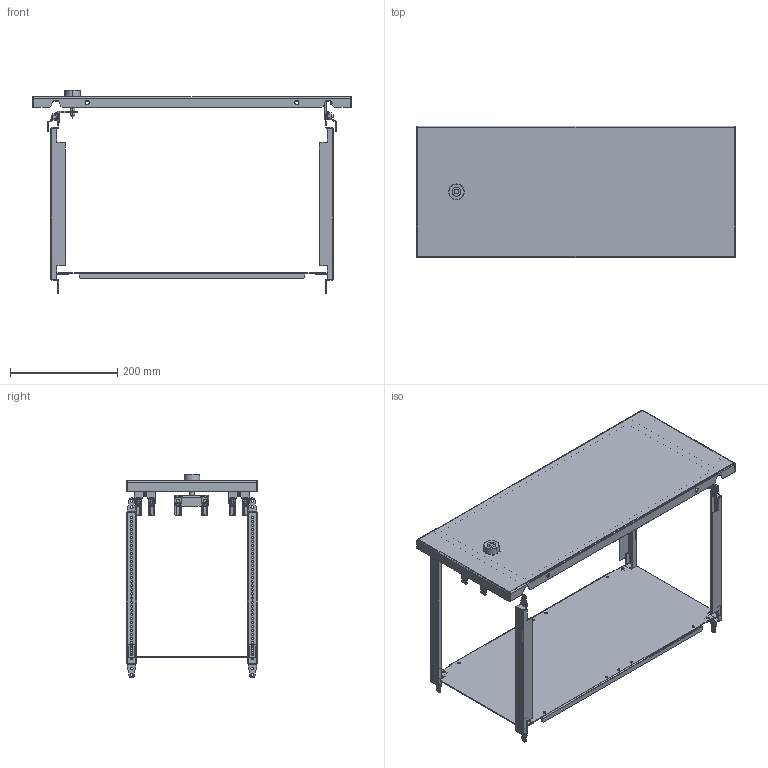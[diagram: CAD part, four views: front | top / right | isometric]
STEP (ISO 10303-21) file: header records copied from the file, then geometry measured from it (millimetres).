
FILE_DESCRIPTION(('CAx-IF Rec.Pracs.---Model Styling and Organization---1.2---2011-12-15','CAx-IF Rec.Pracs.---Geometric and Assembly Validation Properties---4.1---2014-06-16','CAx-IF Rec.Pracs.---PMI Polyline Presentation---2.0---2013-05-24'),'2;1');
FILE_NAME('R5PKEB0625.stp','2021-05-05T13:47:43+03:00',(''),(''),'STEP Interface 4.4 by CT CoreTechnologie','3D_Evolution4.4 by CT CoreTechnologie','');
FILE_SCHEMA(('AUTOMOTIVE_DESIGN { 1 0 10303 214 1 1 1 1 }'));
Length unit declared in the file: millimetre
Products named in the file (20): R5PKEB0625; RB.0329.00.00.0_-00; RB.0348.00.00.0_-00; R5CPMEM_R5CPMEM6250; RB.0116.00.00.2_-00; RB.0687.00.00.1_-00; M6 x 16-DIN 7991 ISR_stright; AC00C485; M6 x 16-DIN 7991 ISR_thread; AC00C745; MS737-1-1; MS737-1-1 Z_ ªàëâ; MS737-1-1 stop_fixed; RB.0572.00.00.1 ÑÁ_-09; PF 7x14 R5PKEB_0250x0600; RB.0572.00.01.1_-09; AC00C266; Ì6õ12-A5100231_straight; AC00C061_AC00C061; RB.0586.00.00.0_-04
Assembly tree (37 placements, depth 4):
  R5PKEB0625
    RB.0329.00.00.0_-00  x4
    RB.0348.00.00.0_-00  x4
    R5CPMEM_R5CPMEM6250
      RB.0116.00.00.2_-00  x2
      RB.0687.00.00.1_-00
      M6 x 16-DIN 7991 ISR_stright  x3
      AC00C485  x6
      M6 x 16-DIN 7991 ISR_thread  x3
      AC00C745  x2
      MS737-1-1
        MS737-1-1 Z_ ªàëâ
        MS737-1-1 stop_fixed
      RB.0572.00.00.1 ÑÁ_-09
        PF 7x14 R5PKEB_0250x0600
        RB.0572.00.01.1_-09
        AC00C266  x2
        Ì6õ12-A5100231_straight
        AC00C061_AC00C061
    RB.0586.00.00.0_-04
Bounding box: 594 x 245 x 379.4 mm (x, y, z)
Surface area: 850925.3 mm2 (no closed solid volume)
Topology: 0 solids, 70 shells, 2036 faces, 5196 edges, 3286 vertices
Faces by surface type: cylinder 963, plane 807, bspline 266
Entity records: 29970 total; most frequent: CARTESIAN_POINT 8192, DIRECTION 4350, ORIENTED_EDGE 4256, EDGE_CURVE 2128, AXIS2_PLACEMENT_3D 1546, VERTEX_POINT 1362, VECTOR 1258, LINE 1258
